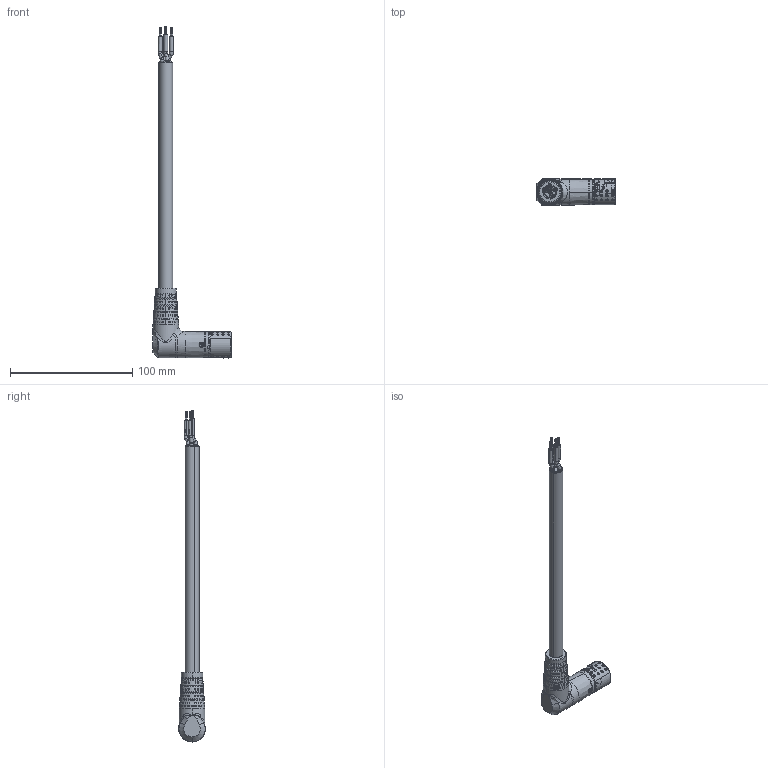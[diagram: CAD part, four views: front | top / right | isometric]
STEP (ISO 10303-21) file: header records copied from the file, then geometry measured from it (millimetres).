
FILE_DESCRIPTION (( 'STEP AP214' ), '1' );
FILE_NAME ('W-TEC 15K GLATT-BU-90°R 4x.STEP', '2021-05-27T12:53:58', ( '' ), ( '' ), 'SwSTEP 2.0', 'SolidWorks 2021', '' );
FILE_SCHEMA (( 'AUTOMOTIVE_DESIGN' ));
Length unit declared in the file: millimetre
Products named in the file (1): W-TEC 15K GLATT-BU-90訌 4x
Bounding box: 63.92 x 21.84 x 271.92 mm (x, y, z)
Surface area: 19053.1 mm2 (no closed solid volume)
Topology: 0 solids, 12 shells, 1801 faces, 4460 edges, 2896 vertices
Faces by surface type: cylinder 696, plane 585, bspline 478, cone 39, torus 3
Entity records: 103199 total; most frequent: CARTESIAN_POINT 44198, ORIENTED_EDGE 8641, DIRECTION 7232, EDGE_CURVE 4389, AXIS2_PLACEMENT_3D 2925, VERTEX_POINT 2896, EDGE_LOOP 2106, UNCERTAINTY_MEASURE_WITH_UNIT 1804
